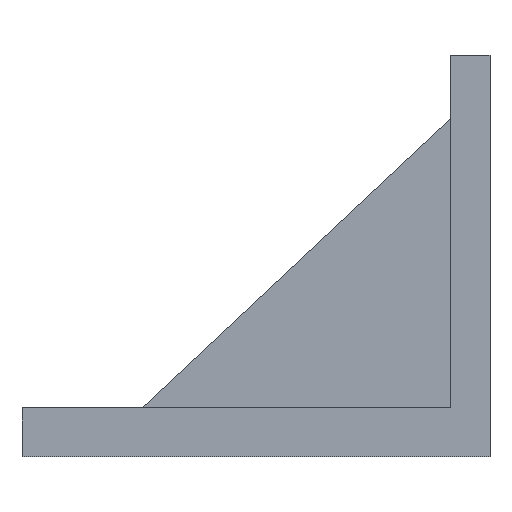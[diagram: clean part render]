
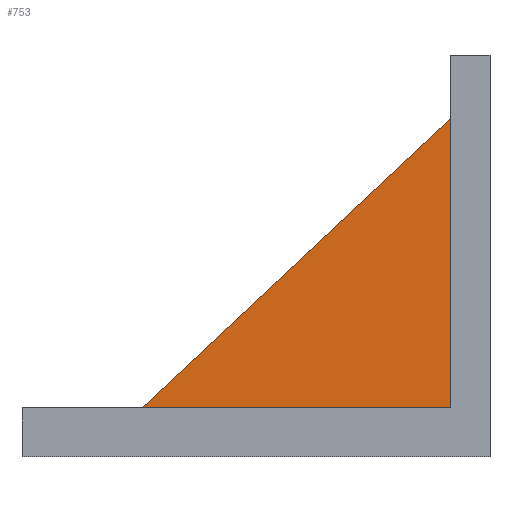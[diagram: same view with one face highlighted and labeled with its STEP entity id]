
A CAD part, left-side view. The second image highlights one B-rep face of the part: STEP entity #753.
In plain terms, the highlighted planar face has unit normal (-1, 0, 0).
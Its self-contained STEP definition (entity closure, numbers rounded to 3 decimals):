
#71 = PLANE('',#72);
#72 = AXIS2_PLACEMENT_3D('',#73,#74,#75);
#73 = CARTESIAN_POINT('',(-23.9,0.,5.));
#74 = DIRECTION('',(0.,0.,1.));
#75 = DIRECTION('',(1.,0.,0.));
#123 = PLANE('',#124);
#124 = AXIS2_PLACEMENT_3D('',#125,#126,#127);
#125 = CARTESIAN_POINT('',(-23.9,4.,5.));
#126 = DIRECTION('',(0.,1.,0.));
#127 = DIRECTION('',(0.,0.,1.));
#184 = VERTEX_POINT('',#185);
#185 = CARTESIAN_POINT('',(-22.9,4.,5.));
#384 = VERTEX_POINT('',#385);
#385 = CARTESIAN_POINT('',(-22.9,4.,34.531));
#398 = PLANE('',#399);
#399 = AXIS2_PLACEMENT_3D('',#400,#401,#402);
#400 = CARTESIAN_POINT('',(-22.9,36.,4.5));
#401 = DIRECTION('',(0.,-0.684,-0.729));
#402 = DIRECTION('',(0.,-0.729,0.684));
#409 = EDGE_CURVE('',#384,#184,#410,.T.);
#410 = SURFACE_CURVE('',#411,(#415,#421),.PCURVE_S1.);
#411 = LINE('',#412,#413);
#412 = CARTESIAN_POINT('',(-22.9,4.,10.071));
#413 = VECTOR('',#414,1.);
#414 = DIRECTION('',(0.,0.,-1.));
#415 = PCURVE('',#123,#416);
#416 = DEFINITIONAL_REPRESENTATION('',(#417),#420);
#417 = B_SPLINE_CURVE_WITH_KNOTS('',1,(#418,#419),.UNSPECIFIED.,.F.,.F.,
  (2,2),(-24.929,5.071),.PIECEWISE_BEZIER_KNOTS.);
#418 = CARTESIAN_POINT('',(30.,1.));
#419 = CARTESIAN_POINT('',(0.,1.));
#420 = ( GEOMETRIC_REPRESENTATION_CONTEXT(2) 
PARAMETRIC_REPRESENTATION_CONTEXT() REPRESENTATION_CONTEXT('2D SPACE',''
  ) );
#421 = PCURVE('',#422,#427);
#422 = PLANE('',#423);
#423 = AXIS2_PLACEMENT_3D('',#424,#425,#426);
#424 = CARTESIAN_POINT('',(-22.9,15.143,15.143));
#425 = DIRECTION('',(1.,0.,0.));
#426 = DIRECTION('',(0.,0.,1.));
#427 = DEFINITIONAL_REPRESENTATION('',(#428),#431);
#428 = B_SPLINE_CURVE_WITH_KNOTS('',1,(#429,#430),.UNSPECIFIED.,.F.,.F.,
  (2,2),(-24.929,5.071),.PIECEWISE_BEZIER_KNOTS.);
#429 = CARTESIAN_POINT('',(19.857,11.143));
#430 = CARTESIAN_POINT('',(-10.143,11.143));
#431 = ( GEOMETRIC_REPRESENTATION_CONTEXT(2) 
PARAMETRIC_REPRESENTATION_CONTEXT() REPRESENTATION_CONTEXT('2D SPACE',''
  ) );
#639 = EDGE_CURVE('',#184,#640,#642,.T.);
#640 = VERTEX_POINT('',#641);
#641 = CARTESIAN_POINT('',(-22.9,35.467,5.));
#642 = SURFACE_CURVE('',#643,(#647,#653),.PCURVE_S1.);
#643 = LINE('',#644,#645);
#644 = CARTESIAN_POINT('',(-22.9,7.571,5.));
#645 = VECTOR('',#646,1.);
#646 = DIRECTION('',(0.,1.,0.));
#647 = PCURVE('',#71,#648);
#648 = DEFINITIONAL_REPRESENTATION('',(#649),#652);
#649 = B_SPLINE_CURVE_WITH_KNOTS('',1,(#650,#651),.UNSPECIFIED.,.F.,.F.,
  (2,2),(-3.571,28.429),.PIECEWISE_BEZIER_KNOTS.);
#650 = CARTESIAN_POINT('',(1.,4.));
#651 = CARTESIAN_POINT('',(1.,36.));
#652 = ( GEOMETRIC_REPRESENTATION_CONTEXT(2) 
PARAMETRIC_REPRESENTATION_CONTEXT() REPRESENTATION_CONTEXT('2D SPACE',''
  ) );
#653 = PCURVE('',#422,#654);
#654 = DEFINITIONAL_REPRESENTATION('',(#655),#658);
#655 = B_SPLINE_CURVE_WITH_KNOTS('',1,(#656,#657),.UNSPECIFIED.,.F.,.F.,
  (2,2),(-3.571,28.429),.PIECEWISE_BEZIER_KNOTS.);
#656 = CARTESIAN_POINT('',(-10.143,11.143));
#657 = CARTESIAN_POINT('',(-10.143,-20.857));
#658 = ( GEOMETRIC_REPRESENTATION_CONTEXT(2) 
PARAMETRIC_REPRESENTATION_CONTEXT() REPRESENTATION_CONTEXT('2D SPACE',''
  ) );
#753 = ADVANCED_FACE('',(#754),#422,.F.);
#754 = FACE_BOUND('',#755,.F.);
#755 = EDGE_LOOP('',(#756,#757,#778));
#756 = ORIENTED_EDGE('',*,*,#639,.T.);
#757 = ORIENTED_EDGE('',*,*,#758,.T.);
#758 = EDGE_CURVE('',#640,#384,#759,.T.);
#759 = SURFACE_CURVE('',#760,(#764,#771),.PCURVE_S1.);
#760 = LINE('',#761,#762);
#761 = CARTESIAN_POINT('',(-22.9,36.,4.5));
#762 = VECTOR('',#763,1.);
#763 = DIRECTION('',(0.,-0.729,0.684));
#764 = PCURVE('',#422,#765);
#765 = DEFINITIONAL_REPRESENTATION('',(#766),#770);
#766 = LINE('',#767,#768);
#767 = CARTESIAN_POINT('',(-10.643,-20.857));
#768 = VECTOR('',#769,1.);
#769 = DIRECTION('',(0.684,0.729));
#770 = ( GEOMETRIC_REPRESENTATION_CONTEXT(2) 
PARAMETRIC_REPRESENTATION_CONTEXT() REPRESENTATION_CONTEXT('2D SPACE',''
  ) );
#771 = PCURVE('',#398,#772);
#772 = DEFINITIONAL_REPRESENTATION('',(#773),#777);
#773 = LINE('',#774,#775);
#774 = CARTESIAN_POINT('',(0.,0.));
#775 = VECTOR('',#776,1.);
#776 = DIRECTION('',(1.,0.));
#777 = ( GEOMETRIC_REPRESENTATION_CONTEXT(2) 
PARAMETRIC_REPRESENTATION_CONTEXT() REPRESENTATION_CONTEXT('2D SPACE',''
  ) );
#778 = ORIENTED_EDGE('',*,*,#409,.T.);
